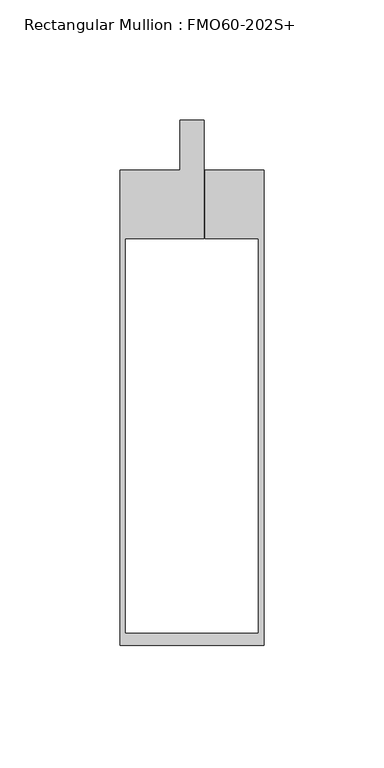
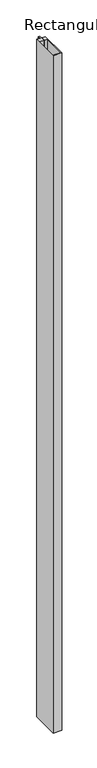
"""IFC4 building model written with IfcOpenShell, lengths in millimetres: member geometry, Rectangular Mullion : FMO60-202S+."""

from ifc_helpers import new_model, si_unit, origin, place, context, project, spatial, faceted_brep, source, transform, mapped, element, save


def rectangular_mullion_fmo60_202s_df9089a6(model_context):
    return source(origin(), model_context, "Body", "Brep", [
        faceted_brep([(-4.9998612, 0.1, 0.0), (-29.996122, 0.1, 0.0), (-29.996122, -197.9044778, 0.0), (30.0001388, -197.9044778, 0.0), (30.0001388, 0.1, 0.0), (5.4998612, 0.1, 0.0), (5.4998612, -28.3988805, 0.0), (27.803878, -28.3988805, 0.0), (27.803878, -192.9044778, 0.0), (-27.7943897, -192.9044778, 0.0), (-27.7943897, -28.4011195, 0.0), (4.9998612, -28.4011195, 0.0), (4.9998612, 21.0914962, 0.0), (-4.9998612, 21.0914866, 0.0), (-4.9998612, 0.1, -5000.0), (-4.9998612, 21.0914866, -5000.0), (4.9998612, 21.0914866, -5000.0), (4.9998612, -28.4011195, -5000.0), (-27.7943897, -28.4011195, -5000.0), (-27.7943897, -192.9044778, -5000.0), (27.803878, -192.9044778, -5000.0), (27.803878, -28.3988805, -5000.0), (5.4998612, -28.3988805, -5000.0), (5.4998612, 0.1, -5000.0), (30.0001388, 0.1, -5000.0), (30.0001388, -197.9044778, -5000.0), (-29.996122, -197.9044778, -5000.0), (-29.996122, 0.1, -5000.0)], [[[0, 1, 2, 3, 4, 5, 6, 7, 8, 9, 10, 11, 12, 13]], [[14, 15, 16, 17, 18, 19, 20, 21, 22, 23, 24, 25, 26, 27]], [[0, 13, 15, 14]], [[1, 0, 14, 27]], [[2, 1, 27, 26]], [[3, 2, 26, 25]], [[4, 3, 25, 24]], [[5, 4, 24, 23]], [[6, 5, 23, 22]], [[7, 6, 22, 21]], [[8, 7, 21, 20]], [[9, 8, 20, 19]], [[10, 9, 19, 18]], [[11, 10, 18, 17]], [[12, 11, 17, 16]], [[13, 12, 16, 15]]]),
    ])


if __name__ == "__main__":
    model = new_model("IFC4")
    model_context = context("Model", 3, world=origin())
    ifc_project = project(units=[si_unit("LENGTHUNIT", "METRE", prefix="MILLI")], contexts=[model_context])
    site = spatial("IfcSite", under=ifc_project)
    building = spatial("IfcBuilding", under=site)
    placement = place(None, origin())
    rectangular_mullion_fmo60_202s_shape = rectangular_mullion_fmo60_202s_df9089a6(model_context)
    element("IfcMember", 1, ObjectType="Rectangular Mullion : FMO60-202S+", at=placement, inside=building, context=model_context, shape_type="MappedRepresentation", body=[
        mapped(rectangular_mullion_fmo60_202s_shape, transform((0.0, 0.0, 0.0), x_axis=(1.0, 0.0, 0.0), y_axis=(0.0, 1.0, 0.0), z_axis=(0.0, 0.0, 1.0))),
    ])
    save(model, "model.ifc")
